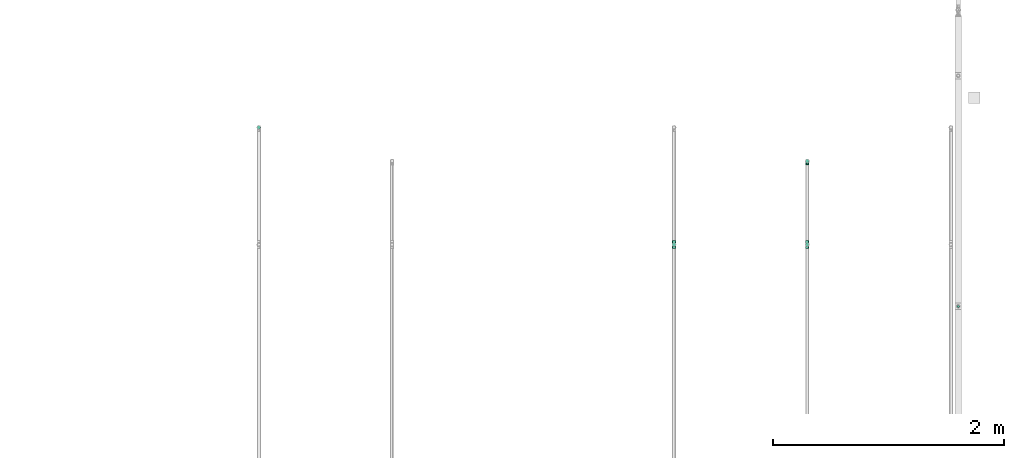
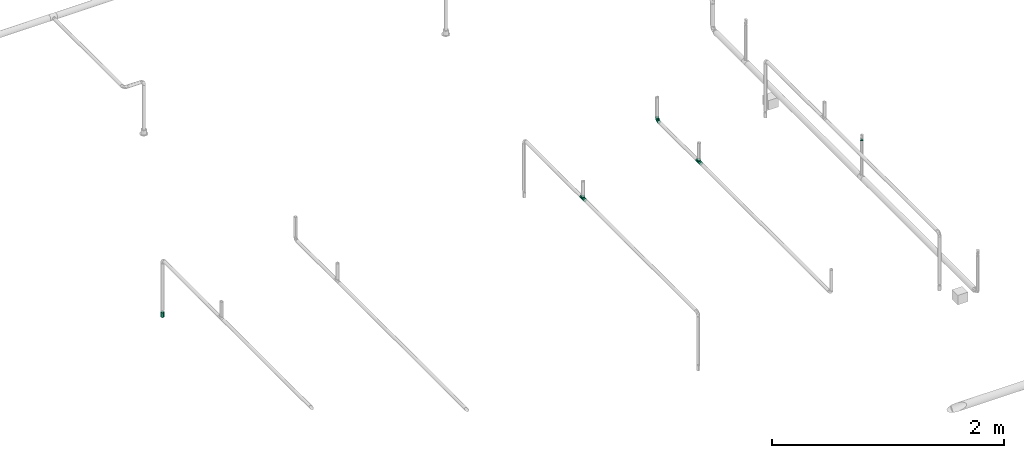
# One storey, part 54 of 95: 4 flow fittings, 1 flow terminal.
"""IFC2X3 building model written with IfcOpenShell, lengths in millimetres."""

from ifc_helpers import new_model, entity, si_unit, converted_unit, derived_unit, direction, frame, origin_with_axes, place, context, subcontext, project, spatial, open_shell, surface_model, source, transform, mapped, type_object, element, save


model = new_model("IFC2X3")

# Units and contexts
model_context = context("Model", 3, precision=0.01, world=frame((0.0, 4.29681676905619e-09, 0.0)), true_north=direction((4.01073788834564e-13, 1.0)))
plan_context = context("Plan", 3, precision=0.01, world=frame((0.0, 4.29681676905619e-09, 0.0)), true_north=direction((4.01073788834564e-13, 1.0)))
body_context = subcontext(model_context, "Body", "Model", "MODEL_VIEW")
ifc_project = project(units=[converted_unit("PLANEANGLEUNIT", "DEGREE", entity("IfcPositiveLengthMeasure", 0.0174532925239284), si_unit("PLANEANGLEUNIT", "RADIAN"), dimensions=[0, 0, 0, 0, 0, 0, 0]), si_unit("AREAUNIT", "SQUARE_METRE"), si_unit("LENGTHUNIT", "METRE", prefix="MILLI"), si_unit("MASSUNIT", "GRAM", prefix="KILO"), si_unit("POWERUNIT", "WATT"), si_unit("PRESSUREUNIT", "PASCAL"), si_unit("FORCEUNIT", "NEWTON", prefix="KILO"), si_unit("ELECTRICVOLTAGEUNIT", "VOLT"), si_unit("ELECTRICCURRENTUNIT", "AMPERE"), si_unit("THERMODYNAMICTEMPERATUREUNIT", "DEGREE_CELSIUS"), si_unit("TIMEUNIT", "SECOND"), si_unit("VOLUMEUNIT", "CUBIC_METRE"), derived_unit("LINEARVELOCITYUNIT", [(si_unit("LENGTHUNIT", "METRE"), 1), (si_unit("TIMEUNIT", "SECOND"), -1)]), derived_unit("VOLUMETRICFLOWRATEUNIT", [(si_unit("VOLUMEUNIT", "CUBIC_METRE"), 1), (si_unit("TIMEUNIT", "SECOND"), -1)]), derived_unit("THERMALTRANSMITTANCEUNIT", [(si_unit("POWERUNIT", "WATT"), 1), (si_unit("THERMODYNAMICTEMPERATUREUNIT", "KELVIN"), -1), (si_unit("AREAUNIT", "SQUARE_METRE"), -1)]), derived_unit("SOUNDPRESSUREUNIT", [(si_unit("PRESSUREUNIT", "PASCAL"), 1)])], contexts=[model_context, plan_context])

# Site, building, storey
site_placement = place(None, frame((0.0, -4.29681676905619e-09, 0.0), z_axis=(0.0, 0.0, 1.0), x_axis=(1.0, 0.0, 0.0)))
site = spatial("IfcSite", under=ifc_project, at=site_placement, CompositionType="ELEMENT")
building_placement = place(site_placement, frame((0.0, 4.29681676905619e-09, 0.0), z_axis=(0.0, 0.0, 1.0), x_axis=(1.0, 0.0, 0.0)))
building = spatial("IfcBuilding", under=site, at=building_placement, Name="mc-building", CompositionType="ELEMENT")
storey_placement = place(building_placement, frame((0.0, 0.0, 210900.0), z_axis=(0.0, 0.0, 1.0), x_axis=(1.0, 0.0, 0.0)))
storey = spatial("IfcBuildingStorey", under=building, at=storey_placement, Name="Nivå F", CompositionType="ELEMENT", Elevation=210900.0)

# Flow fittings
pipe_fitting_type_1 = type_object("IfcPipeFittingType", Name="magi_pipe_fe_elbow_short_001", PredefinedType="BEND")
shared_shape_1 = source(origin_with_axes(), body_context, "Body", "SurfaceModel", [
    surface_model("IfcShellBasedSurfaceModel", [(-33.8, 8.45, -14.63583), (-33.8, 4.37404, -16.32415), (-33.8, 11.9501, -11.9501), (-33.8, -11.9501, -11.9501), (-33.8, -14.63583, -8.45), (-33.8, -8.45, -14.63583), (-33.8, 0.0, -16.9), (-33.8, -4.37404, -16.32415), (-33.8, -4.37404, 16.32415), (-33.8, 0.0, 16.9), (-33.8, -8.45, 14.63583), (-33.8, 16.32415, -4.37404), (-33.8, 14.63583, -8.45), (-33.8, -16.32415, -4.37404), (-33.8, -16.9, 0.0), (-33.8, -16.32415, 4.37404), (-33.8, 11.9501, 11.9501), (-33.8, 14.63583, 8.45), (-33.8, 16.32415, 4.37404), (-33.8, 4.37404, 16.32415), (-33.8, 8.45, 14.63583), (-33.8, -14.63583, 8.45), (-33.8, -11.9501, 11.9501), (-33.8, 16.9, 0.0), (-11.9501, 33.8, -11.9501), (0.0, 33.8, -16.9), (-4.37404, 33.8, -16.32415), (-8.45, 33.8, -14.63583), (-14.63583, 33.8, -8.45), (-16.32415, 33.8, -4.37404), (14.63583, 33.8, -8.45), (8.45, 33.8, 14.63583), (16.32415, 33.8, -4.37404), (8.45, 33.8, -14.63583), (11.9501, 33.8, -11.9501), (4.37404, 33.8, -16.32415), (16.32415, 33.8, 4.37404), (16.9, 33.8, 0.0), (-11.9501, 33.8, 11.9501), (-16.32415, 33.8, 4.37404), (-14.63583, 33.8, 8.45), (-8.45, 33.8, 14.63583), (-4.37404, 33.8, 16.32415), (11.9501, 33.8, 11.9501), (14.63583, 33.8, 8.45), (0.0, 33.8, 16.9), (4.37404, 33.8, 16.32415), (-16.9, 33.8, 0.0), (-24.79389, -13.12945, 9.48721), (-22.19287, -9.75018, 12.59315), (-24.09897, -14.97035, 0.0), (-14.93934, -10.76256, 8.5297), (-22.46095, -14.75051, 5.27077), (14.75051, 22.46094, 5.27077), (11.9251, 13.23888, 4.33236), (13.04069, 14.39795, 0.0), (7.71387, 13.68847, 11.55891), (9.75018, 22.19287, 12.59315), (4.10169, 13.0571, 14.04018), (-24.84007, -6.39063, 15.2048), (-25.81779, -2.23879, 16.61097), (-23.66549, 2.59054, 16.87119), (-26.50418, 14.06512, 11.08152), (-24.21253, 17.66365, 7.72657), (-29.58514, 15.86957, 7.00283), (-6.17382, -7.5455, 0.0), (-13.23888, -11.9251, 4.33236), (-14.39795, -13.04069, 0.0), (-17.81434, 18.87373, 11.97104), (-6.30846, 29.15138, 15.82987), (-2.31622, 25.28002, 16.85849), (-29.23923, 10.23435, 13.77053), (-1.45439, -2.85688, 7.61475), (-0.28326, 0.34872, 10.09509), (-5.74484, -4.04709, 10.4122), (-4.41137, 11.31918, 16.59407), (-8.39727, 3.10034, 15.7812), (-1.72649, 9.1306, 15.53089), (-17.39909, 24.75344, 7.64977), (-26.19233, 20.0512, 0.0), (-28.14518, 17.29657, 4.25857), (-26.05147, 6.6281, 15.96447), (-5.87354, 16.61944, 16.86968), (-12.51807, 12.51807, 16.48937), (-10.06312, 7.38516, 16.81295), (-3.01882, 3.01882, 13.81718), (-13.0571, -4.10169, 14.04018), (-16.82553, -0.15166, 16.38038), (10.76256, 14.93934, 8.5297), (13.12945, 24.79389, 9.48721), (6.39063, 24.84007, 15.2048), (2.23879, 25.81779, 16.61097), (-13.68847, -7.71387, 11.55891), (14.97035, 24.09897, 0.0), (-7.30894, 22.89991, 16.09489), (-10.67958, 26.17414, 14.008), (-12.78295, 18.26924, 15.06066), (-13.88562, 22.45231, 12.93244), (-18.04944, 15.16501, 14.04434), (-23.11658, 20.08178, 4.02986), (-21.84989, 21.84989, 0.0), (-18.55817, 25.48277, 3.93065), (-13.95142, 26.94732, 11.03289), (-18.57098, 7.23906, 16.59756), (-16.58335, 4.14122, 16.89279), (-17.96666, 11.46709, 15.63151), (-9.84453, 17.54304, 16.18938), (0.15166, 16.82553, 16.38038), (-23.27207, 11.47201, 14.23154), (3.84842, 5.86994, 10.70473), (-8.0212, -7.54413, 7.93275), (1.00345, -2.19508, 4.57414), (5.13203, 3.01004, 5.90201), (5.24161, 1.7543, 2.53265), (8.70457, 7.04947, 3.99182), (-20.0512, 26.19233, 0.0), (8.4852, 8.76699, 7.09296), (-4.55488, -6.72064, 4.90681), (2.05031, -2.05031, 0.0), (7.5455, 6.17382, 0.0), (-26.75399, 2.1369, -16.845), (-14.61995, 24.73803, -11.27736), (-28.45274, -13.45335, -9.81895), (-26.00469, 6.63555, -15.96645), (-23.06726, 20.04573, -4.26202), (-13.80647, -4.26506, -14.17873), (-14.67501, -0.21081, -16.07388), (-6.7902, -0.2828, -13.8478), (-24.53586, 11.08096, -14.13417), (-26.72048, 14.00837, -11.05776), (10.0967, 24.44989, -12.75976), (5.83237, 21.40218, -15.03047), (6.66249, 28.54238, -15.38093), (-20.38182, 15.48705, -12.74596), (12.53268, 21.23441, -9.15363), (12.54494, 15.67504, -5.54878), (9.7522, 12.89279, -8.66343), (-15.65186, 19.64213, -13.01327), (-12.03528, 20.66498, -14.67665), (-15.61907, 15.61906, -14.83879), (-25.56551, -15.26206, 0.0), (-24.65452, -15.12934, -5.50955), (13.45335, 28.45274, -9.81895), (15.12934, 24.65452, -5.50955), (-7.35442, -8.31014, -5.65563), (-15.67504, -12.54494, -5.54878), (-24.44989, -10.0967, -12.75976), (0.16522, 0.41303, -9.71728), (-5.70658, -5.33066, -8.89288), (-5.13869, -2.37198, -11.53565), (-21.23441, -12.53268, -9.15363), (0.71146, 7.93863, -14.09382), (0.21081, 14.67501, -16.07388), (3.49291, 14.42772, -14.76381), (-24.89911, -2.13088, -16.591), (-28.54238, -6.66249, -15.38093), (-18.44386, -7.71663, -13.26957), (2.13088, 24.89911, -16.591), (-28.64342, 17.44413, -2.89318), (1.70017, -1.28722, -5.09504), (-16.57067, 26.81947, -7.36596), (-17.69055, 27.4263, -3.76405), (-12.89279, -9.7522, -8.66343), (-5.96611, 5.96611, -15.95814), (-20.53709, 20.09345, -8.28985), (-2.1369, 26.75399, -16.845), (-6.89872, 24.58781, -16.02578), (-10.60739, 26.53157, -13.98044), (-21.40218, -5.83237, -15.03047), (2.93192, 5.89627, -11.55917), (6.89393, 12.61842, -11.82233), (5.58056, 5.95325, -8.79455), (-3.99512, 18.61798, -16.89635), (8.31014, 7.35442, -5.65563), (-9.1383, 9.86148, -16.89041), (-9.99983, 16.02119, -16.39699), (-16.68576, 9.78031, -16.34199), (-27.01915, 16.61158, -7.12979), (15.26206, 25.56551, 0.0), (-18.61798, 3.99512, -16.89635), (-19.37495, 27.82495, 0.0), (-12.61842, -6.89393, -11.82233), (-18.84705, 19.14018, -10.96545)], [open_shell([[[0, 1, 2]], [[3, 4, 5]], [[6, 7, 5]], [[8, 9, 10]], [[1, 6, 2]], [[11, 12, 2]], [[4, 2, 6]], [[2, 13, 10]], [[5, 4, 6]], [[2, 4, 13]], [[14, 15, 13]], [[11, 2, 16]], [[11, 17, 18]], [[11, 16, 17]], [[19, 20, 16]], [[16, 2, 10]], [[19, 16, 10]], [[21, 22, 15]], [[22, 13, 15]], [[22, 10, 13]], [[10, 9, 19]], [[11, 18, 23]], [[24, 25, 26]], [[24, 26, 27]], [[24, 28, 29]], [[25, 24, 30]], [[31, 32, 24]], [[33, 30, 34]], [[33, 35, 25]], [[25, 30, 33]], [[32, 30, 24]], [[32, 36, 37]], [[38, 24, 29]], [[39, 40, 29]], [[40, 38, 29]], [[38, 41, 42]], [[38, 31, 24]], [[31, 38, 42]], [[36, 43, 44]], [[36, 32, 43]], [[31, 45, 46]], [[32, 31, 43]], [[42, 45, 31]], [[39, 29, 47]], [[22, 48, 49]], [[15, 14, 50]], [[51, 48, 52]], [[53, 54, 55]], [[48, 22, 21]], [[15, 52, 21]], [[56, 57, 58]], [[49, 10, 22]], [[49, 59, 10]], [[9, 60, 61]], [[62, 63, 64]], [[65, 66, 67]], [[57, 43, 31]], [[62, 68, 63]], [[42, 69, 70]], [[20, 71, 16]], [[8, 60, 9]], [[72, 73, 74]], [[75, 76, 77]], [[16, 62, 17]], [[40, 39, 78]], [[79, 23, 80]], [[64, 18, 17]], [[9, 61, 19]], [[19, 81, 20]], [[82, 83, 84]], [[74, 85, 86]], [[59, 86, 87]], [[88, 89, 57]], [[90, 31, 46]], [[44, 53, 36]], [[46, 45, 91]], [[54, 53, 88]], [[44, 89, 53]], [[92, 86, 49]], [[89, 44, 43]], [[10, 59, 8]], [[53, 55, 93]], [[93, 36, 53]], [[66, 52, 67]], [[94, 82, 70]], [[95, 96, 94]], [[97, 98, 96]], [[79, 99, 100]], [[41, 38, 95]], [[101, 100, 99]], [[68, 78, 63]], [[42, 41, 69]], [[23, 18, 80]], [[95, 94, 69]], [[78, 101, 99]], [[38, 102, 95]], [[70, 45, 42]], [[97, 95, 102]], [[15, 50, 52]], [[90, 57, 31]], [[57, 90, 58]], [[81, 19, 61]], [[103, 104, 84]], [[105, 81, 103]], [[38, 40, 102]], [[106, 96, 83]], [[94, 106, 82]], [[91, 70, 107]], [[71, 62, 16]], [[62, 108, 98]], [[86, 59, 49]], [[67, 52, 50]], [[60, 59, 87]], [[92, 49, 51]], [[86, 85, 76]], [[91, 90, 46]], [[37, 36, 93]], [[107, 77, 58]], [[107, 58, 90]], [[58, 85, 109]], [[110, 74, 92]], [[72, 74, 110]], [[66, 51, 52]], [[72, 111, 112]], [[113, 114, 112]], [[56, 88, 57]], [[52, 48, 21]], [[49, 48, 51]], [[57, 89, 43]], [[53, 89, 88]], [[103, 81, 61]], [[71, 81, 108]], [[18, 64, 80]], [[63, 78, 99]], [[47, 115, 101]], [[101, 115, 100]], [[40, 78, 102]], [[68, 102, 78]], [[97, 96, 95]], [[105, 98, 108]], [[103, 84, 83]], [[107, 70, 82]], [[76, 84, 87]], [[82, 84, 75]], [[70, 91, 45]], [[90, 91, 107]], [[59, 60, 8]], [[61, 60, 87]], [[73, 85, 74]], [[109, 112, 116]], [[103, 61, 104]], [[105, 103, 83]], [[96, 105, 83]], [[81, 105, 108]], [[96, 98, 105]], [[62, 98, 68]], [[61, 87, 104]], [[87, 84, 104]], [[86, 76, 87]], [[77, 76, 85]], [[58, 77, 85]], [[75, 77, 107]], [[82, 75, 107]], [[76, 75, 84]], [[81, 71, 20]], [[62, 71, 108]], [[95, 69, 41]], [[70, 69, 94]], [[62, 64, 17]], [[80, 63, 99]], [[63, 80, 64]], [[80, 99, 79]], [[66, 65, 117]], [[110, 66, 117]], [[112, 114, 116]], [[118, 117, 65]], [[110, 92, 51]], [[112, 111, 113]], [[119, 55, 54]], [[74, 86, 92]], [[58, 109, 56]], [[116, 56, 109]], [[66, 110, 51]], [[72, 110, 117]], [[111, 72, 117]], [[73, 112, 109]], [[117, 118, 111]], [[113, 111, 118]], [[118, 119, 113]], [[114, 119, 54]], [[119, 114, 113]], [[116, 54, 88]], [[54, 116, 114]], [[116, 88, 56]], [[112, 73, 72]], [[85, 73, 109]], [[78, 39, 101]], [[47, 101, 39]], [[102, 68, 97]], [[97, 68, 98]], [[82, 106, 83]], [[94, 96, 106]], [[1, 120, 6]], [[28, 24, 121]], [[3, 122, 4]], [[0, 123, 1]], [[100, 124, 79]], [[125, 126, 127]], [[128, 2, 129]], [[130, 131, 132]], [[128, 129, 133]], [[134, 135, 136]], [[137, 138, 139]], [[128, 0, 2]], [[67, 140, 141]], [[134, 142, 143]], [[141, 13, 4]], [[144, 65, 145]], [[146, 3, 5]], [[147, 148, 149]], [[145, 141, 150]], [[151, 152, 153]], [[154, 7, 6]], [[5, 155, 146]], [[150, 146, 156]], [[155, 5, 7]], [[143, 135, 134]], [[35, 157, 25]], [[23, 79, 158]], [[148, 159, 144]], [[160, 161, 29]], [[145, 162, 144]], [[163, 152, 151]], [[29, 28, 160]], [[121, 164, 160]], [[33, 34, 130]], [[25, 165, 26]], [[26, 165, 166]], [[142, 34, 30]], [[24, 27, 167]], [[124, 161, 164]], [[157, 35, 132]], [[155, 154, 168]], [[123, 0, 128]], [[169, 170, 171]], [[172, 157, 152]], [[26, 166, 27]], [[132, 35, 33]], [[142, 130, 34]], [[168, 154, 126]], [[136, 135, 173]], [[133, 137, 139]], [[2, 12, 129]], [[170, 131, 130]], [[30, 32, 143]], [[172, 174, 175]], [[176, 123, 128]], [[158, 177, 11]], [[135, 55, 119]], [[167, 27, 166]], [[175, 166, 172]], [[137, 167, 138]], [[122, 141, 4]], [[140, 14, 13]], [[32, 37, 178]], [[170, 130, 134]], [[152, 157, 131]], [[165, 157, 172]], [[153, 170, 151]], [[152, 163, 174]], [[168, 125, 156]], [[122, 146, 150]], [[120, 154, 6]], [[179, 174, 126]], [[179, 126, 154]], [[126, 163, 127]], [[162, 145, 150]], [[140, 13, 141]], [[32, 178, 143]], [[55, 143, 178]], [[177, 129, 12]], [[128, 133, 139]], [[176, 128, 139]], [[120, 123, 179]], [[121, 160, 28]], [[161, 100, 180]], [[166, 175, 138]], [[121, 24, 167]], [[161, 47, 29]], [[79, 124, 158]], [[124, 164, 177]], [[161, 124, 100]], [[136, 171, 170]], [[127, 163, 151]], [[147, 171, 159]], [[148, 144, 162]], [[127, 151, 169]], [[127, 181, 125]], [[129, 177, 164]], [[12, 11, 177]], [[159, 65, 144]], [[67, 141, 145]], [[143, 55, 135]], [[135, 119, 173]], [[123, 120, 1]], [[154, 120, 179]], [[157, 165, 25]], [[166, 165, 172]], [[172, 152, 174]], [[176, 139, 175]], [[126, 174, 163]], [[176, 174, 179]], [[174, 176, 175]], [[123, 176, 179]], [[150, 181, 162]], [[127, 149, 181]], [[181, 148, 162]], [[159, 148, 147]], [[171, 136, 173]], [[170, 134, 136]], [[159, 171, 173]], [[171, 147, 169]], [[169, 147, 149]], [[151, 170, 169]], [[164, 182, 129]], [[182, 121, 137]], [[181, 149, 148]], [[169, 149, 127]], [[182, 137, 133]], [[167, 137, 121]], [[166, 138, 167]], [[175, 139, 138]], [[129, 182, 133]], [[121, 182, 164]], [[161, 160, 164]], [[47, 161, 180]], [[177, 158, 124]], [[23, 158, 11]], [[130, 132, 33]], [[157, 132, 131]], [[143, 142, 30]], [[130, 142, 134]], [[154, 155, 7]], [[146, 155, 168]], [[146, 122, 3]], [[141, 122, 150]], [[152, 131, 153]], [[159, 119, 118]], [[67, 145, 65]], [[170, 153, 131]], [[119, 159, 173]], [[159, 118, 65]], [[156, 125, 181]], [[126, 125, 168]], [[150, 156, 181]], [[168, 156, 146]]])]),
])
flow_fitting_1_placement = place(storey_placement, frame((534653.43639, 446915.88295, 4287.98254), z_axis=(-1.0, 0.0, 0.0), x_axis=(0.0, 0.0, -1.0)))
element("IfcFlowFitting", 1, at=flow_fitting_1_placement, inside=storey, type_object=pipe_fitting_type_1, Name="magi_pipe_fe_elbow_short_001", context=body_context, shape_type="MappedRepresentation", body=[
    mapped(shared_shape_1, transform((0.0, 0.0, 0.0), scale=1.0)),
])
pipe_fitting_type_2 = type_object("IfcPipeFittingType", Name="magi_pipe_fe_tee_centric_90_NOR", PredefinedType="JUNCTION")
shared_shape_2 = source(origin_with_axes(), body_context, "Body", "SurfaceModel", [
    surface_model("IfcShellBasedSurfaceModel", [(-33.8, 4.37404, -16.32415), (-33.8, 0.0, -16.9), (-33.8, 16.32415, -4.37404), (-33.8, 8.45, -14.63583), (-33.8, 11.9501, -11.9501), (-33.8, 14.63583, -8.45), (-33.8, -16.9, 0.0), (-33.8, -11.9501, -11.9501), (-33.8, -14.63583, -8.45), (-33.8, -8.45, -14.63583), (-33.8, -4.37404, -16.32415), (-33.8, -16.32415, -4.37404), (-33.8, 14.63583, 8.45), (-33.8, 16.32415, 4.37404), (-33.8, -8.45, 14.63583), (-33.8, 8.45, 14.63583), (-33.8, 11.9501, 11.9501), (-33.8, 4.37404, 16.32415), (-33.8, 0.0, 16.9), (-33.8, -11.9501, 11.9501), (-33.8, -14.63583, 8.45), (-33.8, -16.32415, 4.37404), (-33.8, -4.37404, 16.32415), (-33.8, 16.9, 0.0), (33.8, 4.37404, -16.32415), (33.8, -16.9, 0.0), (33.8, 0.0, -16.9), (33.8, 14.63583, -8.45), (33.8, 8.45, -14.63583), (33.8, 16.32415, -4.37404), (33.8, 11.9501, -11.9501), (33.8, -16.32415, 4.37404), (33.8, -8.45, -14.63583), (33.8, -4.37404, -16.32415), (33.8, -11.9501, -11.9501), (33.8, -14.63583, -8.45), (33.8, -16.32415, -4.37404), (33.8, 16.32415, 4.37404), (33.8, 8.45, 14.63583), (33.8, 14.63583, 8.45), (33.8, 11.9501, 11.9501), (33.8, -8.45, 14.63583), (33.8, 4.37404, 16.32415), (33.8, -14.63583, 8.45), (33.8, -11.9501, 11.9501), (33.8, 0.0, 16.9), (33.8, -4.37404, 16.32415), (33.8, 16.9, 0.0), (16.28698, -16.28698, 4.51047), (16.9, -16.9, 0.0), (14.62704, -14.62704, 8.4652), (9.47213, -9.47213, 13.99602), (12.26343, -12.26343, 11.62834), (-16.9, -16.9, 0.0), (-16.28698, -16.28698, 4.51047), (-14.62704, -14.62704, 8.4652), (-12.26343, -12.26343, 11.62834), (-9.47213, -9.47213, 13.99602), (-6.42894, -6.42894, 15.62942), (6.42894, -6.42894, 15.62942), (3.24522, -3.24522, 16.58549), (0.0, 0.0, 16.9), (-3.24522, -3.24522, 16.58549), (3.24522, -3.24522, -16.58549), (0.0, 0.0, -16.9), (-3.24522, -3.24522, -16.58549), (-6.42894, -6.42894, -15.62942), (6.42894, -6.42894, -15.62942), (9.47213, -9.47213, -13.99602), (12.26343, -12.26343, -11.62834), (14.62704, -14.62704, -8.4652), (16.28698, -16.28698, -4.51047), (-9.47213, -9.47213, -13.99602), (-12.26343, -12.26343, -11.62834), (-16.28698, -16.28698, -4.51047), (-14.62704, -14.62704, -8.4652), (4.37404, -25.35, -16.32415), (-16.9, -25.35, 0.0), (0.0, -25.35, -16.9), (14.63583, -25.35, -8.45), (8.45, -25.35, -14.63583), (16.32415, -25.35, -4.37404), (11.9501, -25.35, -11.9501), (-11.9501, -25.35, -11.9501), (-8.45, -25.35, -14.63583), (-4.37404, -25.35, -16.32415), (-14.63583, -25.35, -8.45), (-16.32415, -25.35, -4.37404), (16.9, -25.35, 0.0), (8.45, -25.35, 14.63583), (16.32415, -25.35, 4.37404), (14.63583, -25.35, 8.45), (-8.45, -25.35, 14.63583), (11.9501, -25.35, 11.9501), (4.37404, -25.35, 16.32415), (-16.32415, -25.35, 4.37404), (-11.9501, -25.35, 11.9501), (-14.63583, -25.35, 8.45), (0.0, -25.35, 16.9), (-4.37404, -25.35, 16.32415)], [open_shell([[[0, 1, 2]], [[3, 0, 4]], [[0, 2, 5]], [[4, 0, 5]], [[6, 2, 1]], [[7, 8, 9]], [[1, 10, 9]], [[11, 6, 8]], [[1, 9, 8]], [[1, 8, 6]], [[6, 12, 2]], [[12, 13, 2]], [[14, 12, 6]], [[12, 14, 15]], [[16, 12, 15]], [[17, 15, 18]], [[19, 14, 20]], [[21, 20, 14]], [[22, 18, 14]], [[14, 6, 21]], [[14, 18, 15]], [[23, 2, 13]], [[24, 25, 26]], [[27, 24, 28]], [[27, 29, 24]], [[27, 28, 30]], [[31, 25, 24]], [[26, 32, 33]], [[26, 34, 32]], [[35, 25, 36]], [[35, 34, 26]], [[25, 35, 26]], [[24, 29, 31]], [[29, 37, 38]], [[38, 37, 39]], [[38, 31, 29]], [[38, 39, 40]], [[41, 38, 42]], [[43, 41, 44]], [[41, 43, 31]], [[41, 45, 46]], [[41, 31, 38]], [[42, 45, 41]], [[29, 47, 37]], [[31, 43, 48]], [[25, 31, 49]], [[49, 31, 48]], [[43, 50, 48]], [[44, 41, 51]], [[50, 43, 52]], [[51, 52, 44]], [[52, 43, 44]], [[53, 54, 21]], [[53, 21, 6]], [[21, 54, 20]], [[54, 55, 20]], [[56, 57, 19]], [[19, 20, 56]], [[19, 57, 14]], [[56, 20, 55]], [[14, 57, 58]], [[51, 41, 59]], [[60, 45, 61]], [[59, 46, 60]], [[46, 59, 41]], [[60, 46, 45]], [[61, 45, 42]], [[39, 37, 13]], [[16, 38, 40]], [[12, 40, 39]], [[42, 38, 15]], [[23, 37, 47]], [[62, 61, 18]], [[62, 22, 58]], [[22, 62, 18]], [[58, 22, 14]], [[61, 17, 18]], [[42, 17, 61]], [[15, 17, 42]], [[15, 38, 16]], [[12, 16, 40]], [[13, 12, 39]], [[37, 23, 13]], [[5, 27, 30]], [[23, 47, 29]], [[30, 28, 3]], [[27, 2, 29]], [[26, 33, 63]], [[26, 64, 24]], [[64, 26, 63]], [[28, 24, 0]], [[64, 0, 24]], [[4, 30, 3]], [[2, 27, 5]], [[5, 30, 4]], [[2, 23, 29]], [[65, 66, 10]], [[1, 0, 64]], [[1, 65, 10]], [[66, 9, 10]], [[0, 3, 28]], [[1, 64, 65]], [[63, 33, 67]], [[32, 34, 68]], [[69, 68, 34]], [[35, 70, 69]], [[69, 34, 35]], [[32, 68, 67]], [[36, 25, 49]], [[36, 71, 35]], [[71, 36, 49]], [[35, 71, 70]], [[72, 9, 66]], [[72, 7, 9]], [[7, 72, 73]], [[7, 73, 8]], [[74, 53, 11]], [[75, 74, 8]], [[74, 11, 8]], [[11, 53, 6]], [[75, 8, 73]], [[32, 67, 33]], [[76, 77, 78]], [[79, 76, 80]], [[79, 81, 76]], [[79, 80, 82]], [[77, 76, 81]], [[78, 83, 84]], [[84, 85, 78]], [[86, 77, 87]], [[83, 78, 86]], [[77, 86, 78]], [[81, 88, 77]], [[89, 88, 90]], [[89, 90, 91]], [[92, 77, 89]], [[89, 91, 93]], [[92, 89, 94]], [[95, 96, 97]], [[96, 95, 92]], [[92, 98, 99]], [[95, 77, 92]], [[94, 98, 92]], [[89, 77, 88]], [[77, 95, 53]], [[54, 53, 95]], [[97, 96, 56]], [[96, 92, 57]], [[95, 97, 54]], [[58, 92, 99]], [[55, 54, 97]], [[56, 55, 97]], [[58, 57, 92]], [[98, 61, 62]], [[58, 99, 62]], [[56, 96, 57]], [[62, 99, 98]], [[94, 60, 98]], [[89, 59, 94]], [[91, 90, 48]], [[52, 93, 91]], [[93, 51, 89]], [[49, 90, 88]], [[59, 60, 94]], [[51, 59, 89]], [[49, 48, 90]], [[50, 52, 91]], [[48, 50, 91]], [[51, 93, 52]], [[98, 60, 61]], [[88, 81, 49]], [[71, 49, 81]], [[79, 82, 69]], [[82, 80, 68]], [[81, 79, 71]], [[67, 80, 76]], [[70, 71, 79]], [[69, 70, 79]], [[67, 68, 80]], [[78, 64, 63]], [[67, 76, 63]], [[69, 82, 68]], [[63, 76, 78]], [[85, 65, 78]], [[84, 66, 85]], [[86, 87, 74]], [[86, 73, 83]], [[72, 84, 83]], [[53, 87, 77]], [[66, 65, 85]], [[72, 66, 84]], [[53, 74, 87]], [[75, 73, 86]], [[74, 75, 86]], [[72, 83, 73]], [[78, 65, 64]]])]),
])
for number, where, z_axis, x_axis, name in (
    (2, (534653.43639, 446191.7762, 4287.98254), (1.0, 0.0, 0.0), (0.0, -1.0, 0.0), "magi_pipe_fe_tee_centric_90_NOR"),
    (3, (533498.68266, 446191.7762, 4308.26618000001), (1.0, 0.0, 0.0), (0.0, -1.0, 0.0), "magi_pipe_fe_tee_centric_90_NOR"),
):
    element("IfcFlowFitting", number, at=place(storey_placement, frame(where, z_axis=z_axis, x_axis=x_axis)), inside=storey, type_object=pipe_fitting_type_2, Name=name, context=body_context, shape_type="MappedRepresentation", body=[
        mapped(shared_shape_2, transform((0.0, 0.0, 0.0), scale=1.0)),
    ])
pipe_fitting_type_3 = type_object("IfcPipeFittingType", Name="magi_pipe_fe_reducer_centric_short_001", PredefinedType="TRANSITION")
shared_shape_3 = source(origin_with_axes(), body_context, "Body", "SurfaceModel", [
    surface_model("IfcShellBasedSurfaceModel", [(8.6, 10.33541, -2.76936), (8.6, 2.76936, -10.33541), (8.6, 5.35, -9.26647), (8.6, 7.56604, -7.56604), (8.6, 0.0, -10.7), (8.6, 9.26647, -5.35), (8.6, -7.56604, -7.56604), (8.6, 10.7, 0.0), (8.6, -2.76936, -10.33541), (8.6, -5.35, -9.26647), (8.6, -10.33541, -2.76936), (8.6, -9.26647, -5.35), (8.6, 10.33541, 2.76936), (8.6, 9.26647, 5.35), (8.6, 7.56604, 7.56604), (8.6, 5.35, 9.26647), (8.6, 2.76936, 10.33541), (8.6, 0.0, 10.7), (8.6, -9.26647, 5.35), (8.6, -10.33541, 2.76936), (8.6, -10.7, 0.0), (8.6, -7.56604, 7.56604), (8.6, -2.76936, 10.33541), (8.6, -5.35, 9.26647), (6.6, 2.76936, 10.33541), (6.6, -10.33541, -2.76936), (6.6, 0.0, 10.7), (6.6, 5.35, 9.26647), (6.6, 7.56604, 7.56604), (6.6, 9.26647, 5.35), (6.6, 10.33541, 2.76936), (6.6, -10.33541, 2.76936), (6.6, -2.76936, 10.33541), (6.6, -7.56604, 7.56604), (6.6, -5.35, 9.26647), (6.6, -9.26647, 5.35), (6.6, -10.7, 0.0), (6.6, 10.33541, -2.76936), (6.6, 7.56604, -7.56604), (6.6, 9.26647, -5.35), (6.6, 5.35, -9.26647), (6.6, 2.76936, -10.33541), (6.6, -7.56604, -7.56604), (6.6, -9.26647, -5.35), (6.6, -5.35, -9.26647), (6.6, 0.0, -10.7), (6.6, -2.76936, -10.33541), (6.6, 10.7, 0.0), (-2.0, 9.89949, 9.89949), (-2.0, 0.0, 14.0), (-2.0, 3.62347, 13.52296), (-2.0, 7.0, 12.12436), (-2.0, 12.12436, 7.0), (-2.0, 13.52296, 3.62347), (-2.0, -3.62347, 13.52296), (-2.0, -12.12436, -7.0), (-2.0, -9.89949, 9.89949), (-2.0, -7.0, 12.12436), (-2.0, -13.52296, 3.62347), (-2.0, -12.12436, 7.0), (-2.0, -14.0, 0.0), (-2.0, 13.52296, -3.62347), (-2.0, 9.89949, -9.89949), (-2.0, 12.12436, -7.0), (-2.0, 7.0, -12.12436), (-2.0, 3.62347, -13.52296), (-2.0, -7.0, -12.12436), (-2.0, -9.89949, -9.89949), (-2.0, -13.52296, -3.62347), (-2.0, 0.0, -14.0), (-2.0, -3.62347, -13.52296), (-2.0, 14.0, 0.0), (0.0, 3.62347, -13.52296), (0.0, 7.0, -12.12436), (0.0, 9.89949, -9.89949), (0.0, 12.12436, -7.0), (0.0, 13.52296, -3.62347), (0.0, -7.0, -12.12436), (0.0, -12.12436, -7.0), (0.0, 14.0, 0.0), (0.0, 0.0, -14.0), (0.0, -3.62347, -13.52296), (0.0, -9.89949, -9.89949), (0.0, -13.52296, -3.62347), (0.0, 13.52296, 3.62347), (0.0, 12.12436, 7.0), (0.0, 9.89949, 9.89949), (0.0, 0.0, 14.0), (0.0, 3.62347, 13.52296), (0.0, 7.0, 12.12436), (0.0, -3.62347, 13.52296), (0.0, -13.52296, 3.62347), (0.0, -9.89949, 9.89949), (0.0, -12.12436, 7.0), (0.0, -14.0, 0.0), (0.0, -7.0, 12.12436)], [open_shell([[[0, 1, 2]], [[0, 2, 3]], [[1, 0, 4]], [[0, 3, 5]], [[6, 0, 7]], [[8, 6, 9]], [[6, 8, 4]], [[6, 10, 11]], [[6, 4, 0]], [[7, 10, 6]], [[7, 12, 10]], [[12, 13, 14]], [[12, 14, 15]], [[16, 17, 12]], [[16, 12, 15]], [[17, 18, 10]], [[10, 19, 20]], [[18, 19, 10]], [[21, 22, 23]], [[22, 21, 18]], [[17, 22, 18]], [[10, 12, 17]], [[24, 25, 26]], [[27, 25, 24]], [[28, 29, 30]], [[28, 30, 27]], [[31, 26, 25]], [[32, 33, 34]], [[32, 26, 33]], [[33, 31, 35]], [[26, 31, 33]], [[31, 25, 36]], [[27, 30, 25]], [[25, 30, 37]], [[38, 37, 39]], [[37, 40, 25]], [[40, 37, 38]], [[41, 25, 40]], [[25, 42, 43]], [[42, 25, 44]], [[44, 45, 46]], [[44, 25, 41]], [[41, 45, 44]], [[37, 30, 47]], [[25, 10, 36]], [[43, 11, 25]], [[9, 42, 44]], [[43, 42, 6]], [[8, 44, 46]], [[25, 11, 10]], [[10, 20, 36]], [[8, 9, 44]], [[6, 42, 9]], [[6, 11, 43]], [[4, 8, 46]], [[46, 45, 4]], [[41, 1, 45]], [[40, 2, 41]], [[5, 38, 39]], [[40, 38, 3]], [[0, 39, 37]], [[40, 3, 2]], [[2, 1, 41]], [[7, 0, 37]], [[5, 39, 0]], [[5, 3, 38]], [[47, 7, 37]], [[45, 1, 4]], [[30, 12, 47]], [[29, 13, 30]], [[15, 28, 27]], [[29, 28, 14]], [[16, 27, 24]], [[30, 13, 12]], [[12, 7, 47]], [[16, 15, 27]], [[14, 28, 15]], [[14, 13, 29]], [[17, 16, 24]], [[24, 26, 17]], [[32, 22, 26]], [[34, 23, 32]], [[18, 33, 35]], [[34, 33, 21]], [[19, 35, 31]], [[34, 21, 23]], [[23, 22, 32]], [[20, 19, 31]], [[18, 35, 19]], [[18, 21, 33]], [[36, 20, 31]], [[26, 22, 17]], [[48, 49, 50]], [[48, 50, 51]], [[48, 52, 53]], [[48, 53, 49]], [[54, 49, 55]], [[54, 56, 57]], [[56, 54, 58]], [[56, 58, 59]], [[60, 58, 55]], [[55, 58, 54]], [[55, 49, 53]], [[55, 53, 61]], [[62, 61, 63]], [[62, 64, 65]], [[61, 62, 66]], [[65, 66, 62]], [[55, 66, 67]], [[68, 60, 55]], [[66, 69, 70]], [[66, 55, 61]], [[69, 66, 65]], [[53, 71, 61]], [[72, 73, 74]], [[72, 74, 75]], [[72, 76, 77]], [[76, 72, 75]], [[78, 76, 79]], [[80, 77, 81]], [[80, 72, 77]], [[77, 78, 82]], [[76, 78, 77]], [[79, 83, 78]], [[79, 84, 83]], [[84, 85, 86]], [[84, 86, 87]], [[88, 87, 86]], [[88, 86, 89]], [[84, 87, 90]], [[91, 92, 93]], [[90, 91, 94]], [[92, 90, 95]], [[90, 92, 91]], [[94, 84, 90]], [[84, 94, 83]], [[68, 83, 60]], [[55, 78, 68]], [[77, 67, 66]], [[55, 67, 82]], [[81, 66, 70]], [[68, 78, 83]], [[83, 94, 60]], [[81, 77, 66]], [[82, 67, 77]], [[82, 78, 55]], [[80, 81, 70]], [[70, 69, 80]], [[65, 72, 69]], [[64, 73, 65]], [[75, 62, 63]], [[64, 62, 74]], [[76, 63, 61]], [[64, 74, 73]], [[73, 72, 65]], [[79, 76, 61]], [[75, 63, 76]], [[75, 74, 62]], [[71, 79, 61]], [[69, 72, 80]], [[53, 84, 71]], [[52, 85, 53]], [[89, 48, 51]], [[52, 48, 86]], [[88, 51, 50]], [[53, 85, 84]], [[84, 79, 71]], [[88, 89, 51]], [[86, 48, 89]], [[86, 85, 52]], [[87, 88, 50]], [[50, 49, 87]], [[54, 90, 49]], [[57, 95, 54]], [[93, 56, 59]], [[57, 56, 92]], [[91, 59, 58]], [[57, 92, 95]], [[95, 90, 54]], [[94, 91, 58]], [[93, 59, 91]], [[93, 92, 56]], [[60, 94, 58]], [[49, 90, 87]], [[27, 34, 47]], [[47, 34, 44]], [[44, 40, 47]], [[44, 34, 36]], [[87, 86, 92]], [[94, 92, 86]], [[86, 80, 94]], [[74, 80, 86]], [[82, 94, 80]], [[86, 79, 74]], [[47, 40, 74]], [[74, 79, 47]], [[40, 80, 74]], [[44, 36, 82]], [[82, 80, 44]], [[94, 82, 36]], [[44, 80, 40]], [[36, 34, 92]], [[92, 94, 36]], [[34, 87, 92]], [[27, 47, 86]], [[86, 87, 27]], [[79, 86, 47]], [[27, 87, 34]]])]),
])
flow_fitting_2_placement = place(storey_placement, frame((535962.24677, 445656.17841, 4383.44411000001), z_axis=(1.0, 0.0, 0.0), x_axis=(0.0, 0.0, 1.0)))
element("IfcFlowFitting", 4, at=flow_fitting_2_placement, inside=storey, type_object=pipe_fitting_type_3, Name="magi_pipe_fe_reducer_centric_short_001", context=body_context, shape_type="MappedRepresentation", body=[
    mapped(shared_shape_3, transform((0.0, 0.0, 0.0), scale=1.0)),
])

# Flow terminal
fire_suppression_terminal_type = type_object("IfcFireSuppressionTerminalType", Name="SP-15-K80-68DGR-STD", PredefinedType="NOTDEFINED")
shared_shape_4 = source(origin_with_axes(), body_context, "Body", "SurfaceModel", [
    surface_model("IfcShellBasedSurfaceModel", [(15.45481, -4.1411, 53.0), (13.85641, -8.0, 53.0), (15.45481, -4.1411, 0.0), (16.0, 0.0, 0.0), (16.0, 0.0, 53.0), (15.45481, 4.1411, 0.0), (13.85641, 8.0, 53.0), (15.45481, 4.1411, 53.0), (11.31371, 11.31371, 53.0), (8.0, 13.85641, 53.0), (4.1411, 15.45481, 53.0), (-8.0, 13.85641, 53.0), (-4.1411, 15.45481, 53.0), (0.0, 16.0, 53.0), (-11.31371, 11.31371, 53.0), (-13.85641, 8.0, 53.0), (-15.45481, 4.1411, 53.0), (11.31371, -11.31371, 53.0), (-16.0, 0.0, 53.0), (0.0, -16.0, 53.0), (4.1411, -15.45481, 53.0), (8.0, -13.85641, 53.0), (-13.85641, -8.0, 53.0), (-11.31371, -11.31371, 53.0), (-15.45481, -4.1411, 53.0), (-8.0, -13.85641, 53.0), (-4.1411, -15.45481, 53.0), (8.0, -13.85641, 0.0), (4.1411, -15.45481, 0.0), (0.0, -16.0, 0.0), (-4.1411, -15.45481, 0.0), (13.85641, -8.0, 0.0), (11.31371, -11.31371, 0.0), (-16.0, 0.0, 0.0), (-8.0, -13.85641, 0.0), (-11.31371, -11.31371, 0.0), (-13.85641, -8.0, 0.0), (-15.45481, -4.1411, 0.0), (4.1411, 15.45481, 0.0), (13.85641, 8.0, 0.0), (8.0, 13.85641, 0.0), (11.31371, 11.31371, 0.0), (-15.45481, 4.1411, 0.0), (-11.31371, 11.31371, 0.0), (-8.0, 13.85641, 0.0), (-13.85641, 8.0, 0.0), (-4.1411, 15.45481, 0.0), (0.0, 16.0, 0.0)], [open_shell([[[0, 1, 2]], [[3, 4, 0]], [[5, 6, 7]], [[7, 4, 3]], [[8, 9, 10]], [[8, 10, 11]], [[8, 4, 7]], [[6, 8, 7]], [[4, 8, 11]], [[12, 11, 13]], [[11, 10, 13]], [[14, 15, 11]], [[16, 11, 15]], [[11, 16, 4]], [[16, 0, 4]], [[17, 1, 0]], [[18, 17, 16]], [[19, 20, 21]], [[18, 21, 17]], [[21, 18, 19]], [[22, 23, 24]], [[18, 24, 23]], [[25, 26, 23]], [[18, 23, 26]], [[26, 19, 18]], [[0, 16, 17]], [[27, 28, 29]], [[27, 29, 30]], [[2, 31, 32]], [[32, 27, 33]], [[2, 32, 33]], [[34, 35, 30]], [[36, 30, 35]], [[36, 37, 30]], [[37, 27, 30]], [[37, 33, 27]], [[33, 5, 2]], [[38, 5, 33]], [[39, 5, 38]], [[38, 40, 41]], [[39, 38, 41]], [[33, 42, 38]], [[43, 44, 45]], [[42, 45, 44]], [[46, 47, 44]], [[38, 42, 44]], [[44, 47, 38]], [[5, 3, 2]], [[45, 42, 16]], [[45, 15, 43]], [[46, 44, 11]], [[14, 44, 43]], [[47, 46, 12]], [[33, 18, 42]], [[18, 16, 42]], [[16, 15, 45]], [[15, 14, 43]], [[44, 14, 11]], [[11, 12, 46]], [[12, 13, 47]], [[40, 38, 10]], [[40, 9, 41]], [[5, 39, 6]], [[8, 39, 41]], [[3, 5, 7]], [[13, 10, 38]], [[10, 9, 40]], [[9, 8, 41]], [[8, 6, 39]], [[47, 13, 38]], [[2, 3, 0]], [[31, 2, 1]], [[28, 27, 21]], [[29, 28, 20]], [[1, 17, 32]], [[17, 27, 32]], [[21, 27, 17]], [[21, 20, 28]], [[31, 1, 32]], [[20, 19, 29]], [[34, 30, 26]], [[34, 25, 35]], [[37, 36, 22]], [[23, 36, 35]], [[33, 37, 24]], [[19, 26, 30]], [[26, 25, 34]], [[25, 23, 35]], [[23, 22, 36]], [[37, 22, 24]], [[24, 18, 33]], [[29, 19, 30]]])]),
])
flow_terminal_placement = place(storey_placement, frame((529898.68266, 447207.85, 3759.89999999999), z_axis=(0.0, 0.0, -1.0), x_axis=(1.0, 0.0, 0.0)))
element("IfcFlowTerminal", 5, at=flow_terminal_placement, inside=storey, type_object=fire_suppression_terminal_type, Name="SP-15-K80-68DGR-STD", context=body_context, shape_type="MappedRepresentation", body=[
    mapped(shared_shape_4, transform((0.0, 0.0, 0.0), scale=1.0)),
])

save(model, "model.ifc")
